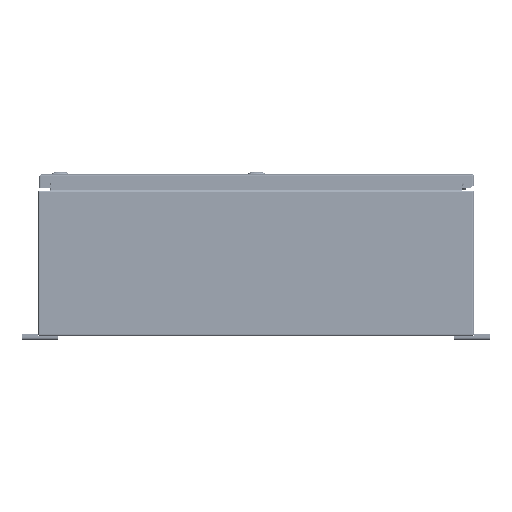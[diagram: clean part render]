
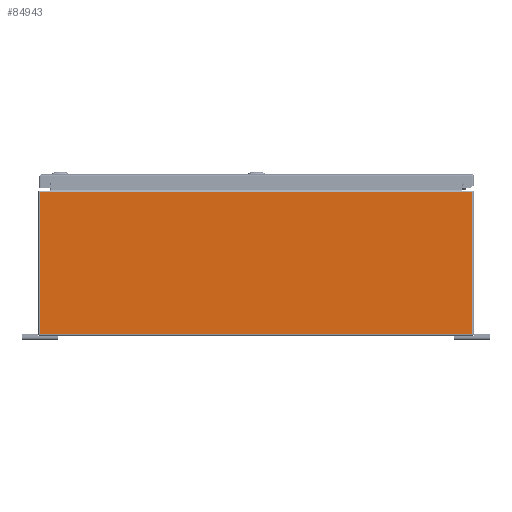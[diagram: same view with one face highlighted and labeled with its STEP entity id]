
A CAD part, left-side view. The second image highlights one B-rep face of the part: STEP entity #84943.
In plain terms, the highlighted planar face has unit normal (-1, 0, 0).
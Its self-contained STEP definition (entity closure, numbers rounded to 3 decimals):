
#5107=PLANE('',#91153);
#7253=LINE('',#120945,#13695);
#7254=LINE('',#120949,#13696);
#7255=LINE('',#120951,#13697);
#7256=LINE('',#120953,#13698);
#7257=LINE('',#120955,#13699);
#7258=LINE('',#120956,#13700);
#13695=VECTOR('',#99040,0.394);
#13696=VECTOR('',#99045,0.394);
#13697=VECTOR('',#99046,0.394);
#13698=VECTOR('',#99047,0.394);
#13699=VECTOR('',#99048,0.394);
#13700=VECTOR('',#99049,0.394);
#21458=FACE_OUTER_BOUND('',#26595,.T.);
#26595=EDGE_LOOP('',(#57464,#57465,#57466,#57467,#57468,#57469));
#35591=VERTEX_POINT('',#120927);
#35598=VERTEX_POINT('',#120944);
#35599=VERTEX_POINT('',#120948);
#35600=VERTEX_POINT('',#120950);
#35601=VERTEX_POINT('',#120952);
#35602=VERTEX_POINT('',#120954);
#44088=EDGE_CURVE('',#35591,#35598,#7253,.T.);
#44090=EDGE_CURVE('',#35599,#35591,#7254,.T.);
#44091=EDGE_CURVE('',#35599,#35600,#7255,.T.);
#44092=EDGE_CURVE('',#35601,#35600,#7256,.T.);
#44093=EDGE_CURVE('',#35602,#35601,#7257,.T.);
#44094=EDGE_CURVE('',#35602,#35598,#7258,.T.);
#57464=ORIENTED_EDGE('',*,*,#44090,.F.);
#57465=ORIENTED_EDGE('',*,*,#44091,.T.);
#57466=ORIENTED_EDGE('',*,*,#44092,.F.);
#57467=ORIENTED_EDGE('',*,*,#44093,.F.);
#57468=ORIENTED_EDGE('',*,*,#44094,.T.);
#57469=ORIENTED_EDGE('',*,*,#44088,.F.);
#84943=ADVANCED_FACE('',(#21458),#5107,.F.);
#91153=AXIS2_PLACEMENT_3D('',#120947,#99043,#99044);
#99040=DIRECTION('',(0.,0.,-1.));
#99043=DIRECTION('center_axis',(1.,0.,0.));
#99044=DIRECTION('ref_axis',(0.,0.,-1.));
#99045=DIRECTION('',(0.,-1.,0.));
#99046=DIRECTION('',(0.,1.,0.));
#99047=DIRECTION('',(0.,-1.,0.));
#99048=DIRECTION('',(0.,0.,1.));
#99049=DIRECTION('',(0.,-1.,0.));
#120927=CARTESIAN_POINT('',(-36.,-14.901,9.901));
#120944=CARTESIAN_POINT('',(-36.,-14.901,0.099));
#120945=CARTESIAN_POINT('',(-36.,-14.901,5.));
#120947=CARTESIAN_POINT('Origin',(-36.,0.,5.));
#120948=CARTESIAN_POINT('',(-36.,-14.126,9.901));
#120949=CARTESIAN_POINT('',(-36.,-7.475,9.901));
#120950=CARTESIAN_POINT('',(-36.,14.126,9.901));
#120951=CARTESIAN_POINT('',(-36.,7.455,9.901));
#120952=CARTESIAN_POINT('',(-36.,14.901,9.901));
#120953=CARTESIAN_POINT('',(-36.,-7.475,9.901));
#120954=CARTESIAN_POINT('',(-36.,14.901,0.099));
#120955=CARTESIAN_POINT('',(-36.,14.901,5.));
#120956=CARTESIAN_POINT('',(-36.,7.5,0.099));
